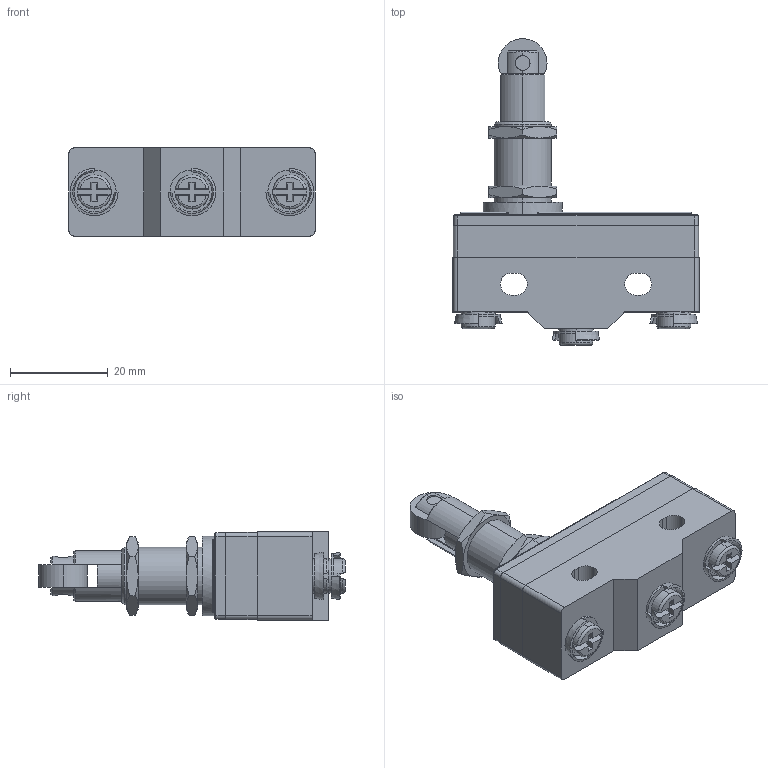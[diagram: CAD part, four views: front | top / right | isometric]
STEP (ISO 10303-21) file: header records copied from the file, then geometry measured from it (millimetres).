
FILE_DESCRIPTION (( 'STEP AP203' ), '1' );
FILE_NAME ('FM1308.STEP', '2018-06-01T16:51:57', ( '' ), ( '' ), 'SwSTEP 2.0', 'SolidWorks 2012', '' );
FILE_SCHEMA (( 'CONFIG_CONTROL_DESIGN' ));
Length unit declared in the file: millimetre
Products named in the file (1): FM1308
Bounding box: 50.3 x 62.67 x 18 mm (x, y, z)
Volume: 22217.1 mm3; surface area: 8110.3 mm2
Topology: 1 solids, 1 shells, 252 faces, 632 edges, 404 vertices
Faces by surface type: plane 118, cylinder 68, cone 53, torus 13
Entity records: 7950 total; most frequent: CARTESIAN_POINT 1833, DIRECTION 1267, ORIENTED_EDGE 1264, EDGE_CURVE 632, AXIS2_PLACEMENT_3D 478, VERTEX_POINT 404, LINE 311, VECTOR 311
